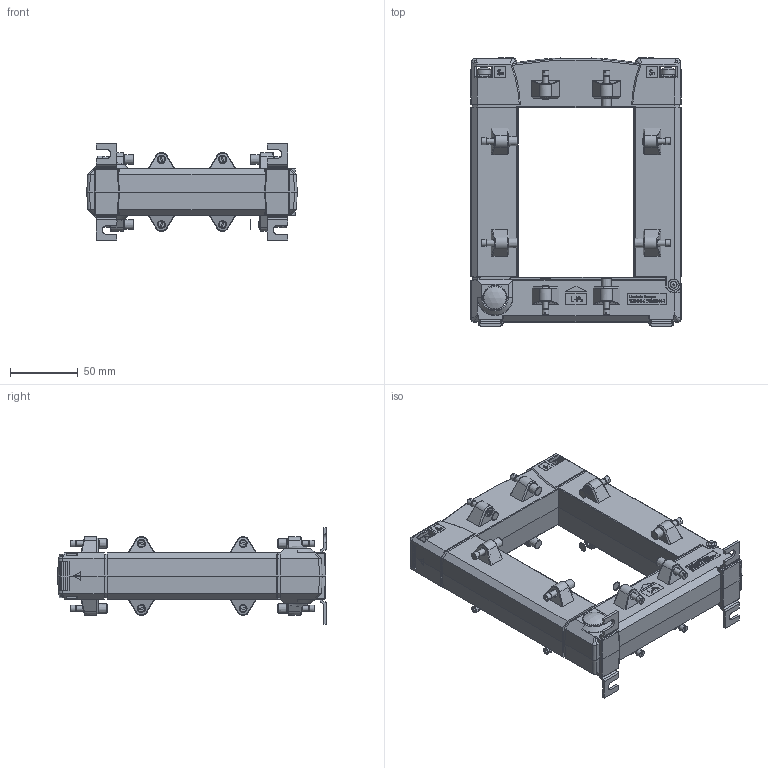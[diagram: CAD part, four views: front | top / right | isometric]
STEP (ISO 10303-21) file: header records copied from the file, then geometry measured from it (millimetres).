
FILE_DESCRIPTION(/* description */ (''),/* implementation_level */ '2;1');
FILE_NAME(/* name */ 'KBU812.stp',/* time_stamp */ '2024-03-06T08:40:31+01:00',/* author */ ('JDI'),/* organization */ (''),/* preprocessor_version */ 'ST-DEVELOPER v19.2',/* originating_system */ 'Autodesk Inventor 2023',/* authorisation */ '');
FILE_SCHEMA (('AUTOMOTIVE_DESIGN { 1 0 10303 214 3 1 1 }'));
Products named in the file (1): KBU812
Bounding box: 155.4 x 198.15 x 71 mm (x, y, z)
Volume: 243233.9 mm3; surface area: 185115.2 mm2
Topology: 3 solids, 3 shells, 2872 faces, 7611 edges, 4864 vertices
Faces by surface type: plane 1790, cylinder 522, bspline 295, cone 229, sphere 26, torus 10
Full cylindrical faces by diameter (mm): 1.5 x4, 3 x6, 4 x32, 4.1 x16, 5 x27, 5.3 x4, 5.8 x8, 8 x1, 10 x4
Entity records: 110729 total; most frequent: CARTESIAN_POINT 37741, ORIENTED_EDGE 15202, DIRECTION 13695, EDGE_CURVE 7601, LINE 5101, VECTOR 5101, VERTEX_POINT 4864, AXIS2_PLACEMENT_3D 4297
